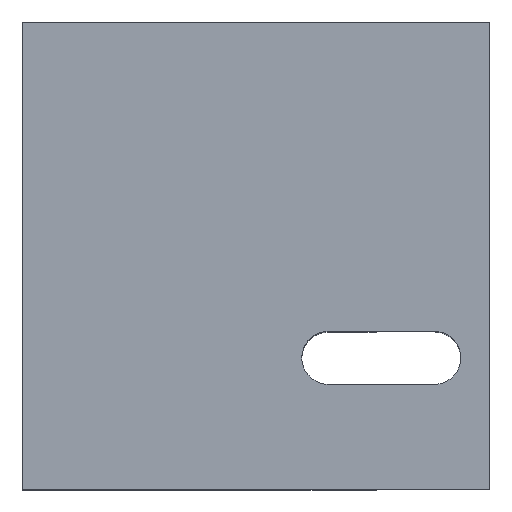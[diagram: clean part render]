
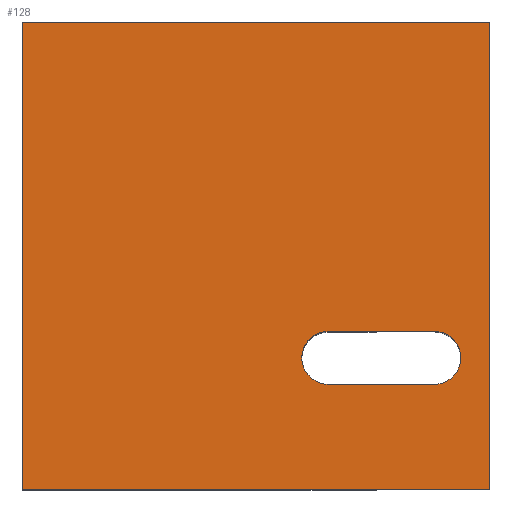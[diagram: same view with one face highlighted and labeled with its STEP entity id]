
A CAD part, top view. The second image highlights one B-rep face of the part: STEP entity #128.
In plain terms, the highlighted planar face has unit normal (0, 0, 1).
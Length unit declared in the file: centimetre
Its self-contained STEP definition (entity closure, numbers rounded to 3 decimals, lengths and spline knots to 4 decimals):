
#15 = ORIENTED_EDGE ( 'NONE', *, *, #232, .T. ) ;
#20 = EDGE_CURVE ( 'NONE', #295, #55, #112, .T. ) ;
#37 = CARTESIAN_POINT ( 'NONE',  ( 654.671, 337.822, 1000. ) ) ;
#55 = VERTEX_POINT ( 'NONE', #76 ) ;
#66 = CIRCLE ( 'NONE', #131, 56.7113 ) ;
#70 = DIRECTION ( 'NONE',  ( 1., 0., 0. ) ) ;
#73 = ORIENTED_EDGE ( 'NONE', *, *, #20, .T. ) ;
#76 = CARTESIAN_POINT ( 'NONE',  ( 0., 1000., 1000. ) ) ;
#86 = EDGE_CURVE ( 'NONE', #210, #217, #66, .T. ) ;
#102 = VECTOR ( 'NONE', #498, 100. ) ;
#106 = DIRECTION ( 'NONE',  ( 0., 0., 1. ) ) ;
#107 = ORIENTED_EDGE ( 'NONE', *, *, #528, .F. ) ;
#108 = EDGE_CURVE ( 'NONE', #55, #299, #553, .T. ) ;
#112 = LINE ( 'NONE', #400, #113 ) ;
#113 = VECTOR ( 'NONE', #396, 100. ) ;
#120 = AXIS2_PLACEMENT_3D ( 'NONE', #150, #155, #70 ) ;
#127 = CARTESIAN_POINT ( 'NONE',  ( 0., 0., 1000. ) ) ;
#128 = ADVANCED_FACE ( 'NONE', ( #263, #172 ), #361, .T. ) ;
#131 = AXIS2_PLACEMENT_3D ( 'NONE', #599, #370, #216 ) ;
#140 = AXIS2_PLACEMENT_3D ( 'NONE', #127, #546, #419 ) ;
#150 = CARTESIAN_POINT ( 'NONE',  ( 881.6778, 281.1108, 1000. ) ) ;
#155 = DIRECTION ( 'NONE',  ( 0., 0., 1. ) ) ;
#172 = FACE_OUTER_BOUND ( 'NONE', #201, .T. ) ;
#173 = CARTESIAN_POINT ( 'NONE',  ( 654.671, 224.3995, 1000. ) ) ;
#181 = CARTESIAN_POINT ( 'NONE',  ( 0., 0., 1000. ) ) ;
#183 = CARTESIAN_POINT ( 'NONE',  ( 1000., 1000., 1000. ) ) ;
#193 = CARTESIAN_POINT ( 'NONE',  ( 881.6778, 281.1108, 1000. ) ) ;
#201 = EDGE_LOOP ( 'NONE', ( #414, #260, #15, #73 ) ) ;
#210 = VERTEX_POINT ( 'NONE', #37 ) ;
#216 = DIRECTION ( 'NONE',  ( 1., 0., 0. ) ) ;
#217 = VERTEX_POINT ( 'NONE', #574 ) ;
#229 = CARTESIAN_POINT ( 'NONE',  ( 881.6778, 224.3995, 1000. ) ) ;
#232 = EDGE_CURVE ( 'NONE', #512, #295, #284, .T. ) ;
#235 = VECTOR ( 'NONE', #265, 100. ) ;
#245 = AXIS2_PLACEMENT_3D ( 'NONE', #193, #106, #578 ) ;
#246 = CARTESIAN_POINT ( 'NONE',  ( 881.6778, 337.822, 1000. ) ) ;
#250 = ORIENTED_EDGE ( 'NONE', *, *, #424, .F. ) ;
#253 = VERTEX_POINT ( 'NONE', #229 ) ;
#260 = ORIENTED_EDGE ( 'NONE', *, *, #494, .T. ) ;
#263 = FACE_BOUND ( 'NONE', #427, .T. ) ;
#265 = DIRECTION ( 'NONE',  ( 0., -1., 0. ) ) ;
#278 = CARTESIAN_POINT ( 'NONE',  ( 881.6778, 337.822, 1000. ) ) ;
#284 = LINE ( 'NONE', #519, #383 ) ;
#295 = VERTEX_POINT ( 'NONE', #183 ) ;
#299 = VERTEX_POINT ( 'NONE', #181 ) ;
#304 = VERTEX_POINT ( 'NONE', #278 ) ;
#313 = VERTEX_POINT ( 'NONE', #471 ) ;
#331 = VECTOR ( 'NONE', #543, 100. ) ;
#341 = VECTOR ( 'NONE', #504, 100. ) ;
#352 = ORIENTED_EDGE ( 'NONE', *, *, #86, .F. ) ;
#353 = EDGE_CURVE ( 'NONE', #253, #313, #518, .T. ) ;
#354 = LINE ( 'NONE', #246, #331 ) ;
#356 = LINE ( 'NONE', #593, #341 ) ;
#361 = PLANE ( 'NONE',  #140 ) ;
#365 = EDGE_CURVE ( 'NONE', #313, #304, #595, .T. ) ;
#370 = DIRECTION ( 'NONE',  ( 0., 0., 1. ) ) ;
#383 = VECTOR ( 'NONE', #432, 100. ) ;
#396 = DIRECTION ( 'NONE',  ( -1., 0., 0. ) ) ;
#400 = CARTESIAN_POINT ( 'NONE',  ( 0., 1000., 1000. ) ) ;
#414 = ORIENTED_EDGE ( 'NONE', *, *, #108, .T. ) ;
#419 = DIRECTION ( 'NONE',  ( 1., 0., 0. ) ) ;
#424 = EDGE_CURVE ( 'NONE', #304, #210, #354, .T. ) ;
#427 = EDGE_LOOP ( 'NONE', ( #352, #250, #446, #500, #107 ) ) ;
#432 = DIRECTION ( 'NONE',  ( 0., 1., 0. ) ) ;
#446 = ORIENTED_EDGE ( 'NONE', *, *, #365, .F. ) ;
#465 = CARTESIAN_POINT ( 'NONE',  ( 0., 1000., 1000. ) ) ;
#471 = CARTESIAN_POINT ( 'NONE',  ( 938.3891, 281.1108, 1000. ) ) ;
#494 = EDGE_CURVE ( 'NONE', #299, #512, #356, .T. ) ;
#498 = DIRECTION ( 'NONE',  ( 1., 0., 0. ) ) ;
#500 = ORIENTED_EDGE ( 'NONE', *, *, #353, .F. ) ;
#501 = CARTESIAN_POINT ( 'NONE',  ( 1000., 0., 1000. ) ) ;
#504 = DIRECTION ( 'NONE',  ( 1., 0., 0. ) ) ;
#512 = VERTEX_POINT ( 'NONE', #501 ) ;
#518 = CIRCLE ( 'NONE', #245, 56.7113 ) ;
#519 = CARTESIAN_POINT ( 'NONE',  ( 1000., 1000., 1000. ) ) ;
#528 = EDGE_CURVE ( 'NONE', #217, #253, #598, .T. ) ;
#543 = DIRECTION ( 'NONE',  ( -1., 0., 0. ) ) ;
#546 = DIRECTION ( 'NONE',  ( 0., 0., 1. ) ) ;
#553 = LINE ( 'NONE', #465, #235 ) ;
#574 = CARTESIAN_POINT ( 'NONE',  ( 654.671, 224.3995, 1000. ) ) ;
#578 = DIRECTION ( 'NONE',  ( 1., 0., 0. ) ) ;
#593 = CARTESIAN_POINT ( 'NONE',  ( 0., 0., 1000. ) ) ;
#595 = CIRCLE ( 'NONE', #120, 56.7113 ) ;
#598 = LINE ( 'NONE', #173, #102 ) ;
#599 = CARTESIAN_POINT ( 'NONE',  ( 654.671, 281.1108, 1000. ) ) ;
